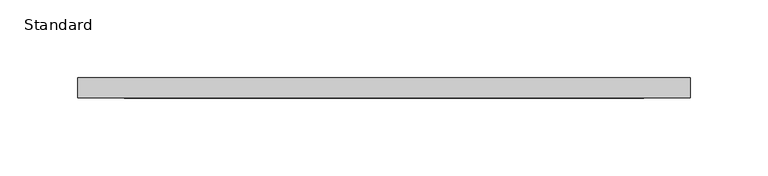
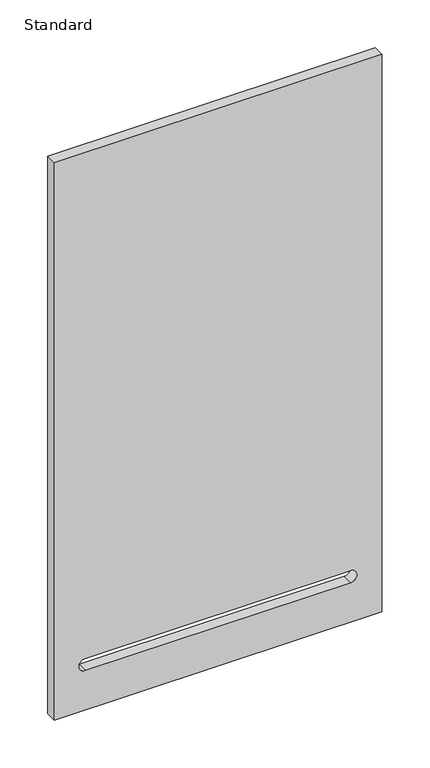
"""IFC4 building model written with IfcOpenShell, lengths in millimetres: furniture geometry, X_Locker-Duracube-Door : Standard."""

from ifc_helpers import new_model, si_unit, point, frame, frame_2d, origin, place, context, project, spatial, polyline, circle_curve, trimmed, segment, composite_curve, outline, extrude, source, transform, mapped, element, save


def standard_31d623df(model_context):
    return source(origin(), model_context, "Body", "SweptSolid", [
        extrude(outline(polyline([(712.0, 241.7003264), (712.0, -152.2996736), (3.0, -152.2996736), (3.0, 241.7003264), (712.0, 241.7003264)]), holes=[composite_curve([segment(trimmed(circle_curve(frame_2d((60.5, 204.2003264)), 7.5), [point((68.0, 204.2003264))], [point((53.0, 204.2003264))], True, "CARTESIAN"), True, "CONTINUOUS"), segment(polyline([(53.0, 204.2003264), (53.0, -114.7996736)]), True, "CONTINUOUS"), segment(trimmed(circle_curve(frame_2d((60.5, -114.7996736)), 7.5), [point((53.0, -114.7996736))], [point((68.0, -114.7996736))], True, "CARTESIAN"), True, "CONTINUOUS"), segment(polyline([(68.0, -114.7996736), (68.0, 204.2003264)]), True, "CONTINUOUS")], self_intersect=False)]), frame((0.0, -13.0, 0.0), z_axis=(0.0, 1.0, 0.0), x_axis=(0.0, 0.0, 1.0)), (0.0, 0.0, 1.0), 13.0),
    ])


if __name__ == "__main__":
    model = new_model("IFC4")
    model_context = context("Model", 3, world=origin())
    ifc_project = project(units=[si_unit("LENGTHUNIT", "METRE", prefix="MILLI")], contexts=[model_context])
    site = spatial("IfcSite", under=ifc_project)
    building = spatial("IfcBuilding", under=site)
    placement = place(None, origin())
    standard_shape = standard_31d623df(model_context)
    element("IfcFurniture", 1, ObjectType="X_Locker-Duracube-Door : Standard", at=placement, inside=building, context=model_context, shape_type="MappedRepresentation", body=[
        mapped(standard_shape, transform((0.0, 0.0, 0.0), x_axis=(1.0, 0.0, 0.0), y_axis=(0.0, 1.0, 0.0), z_axis=(0.0, 0.0, 1.0))),
    ])
    save(model, "model.ifc")
